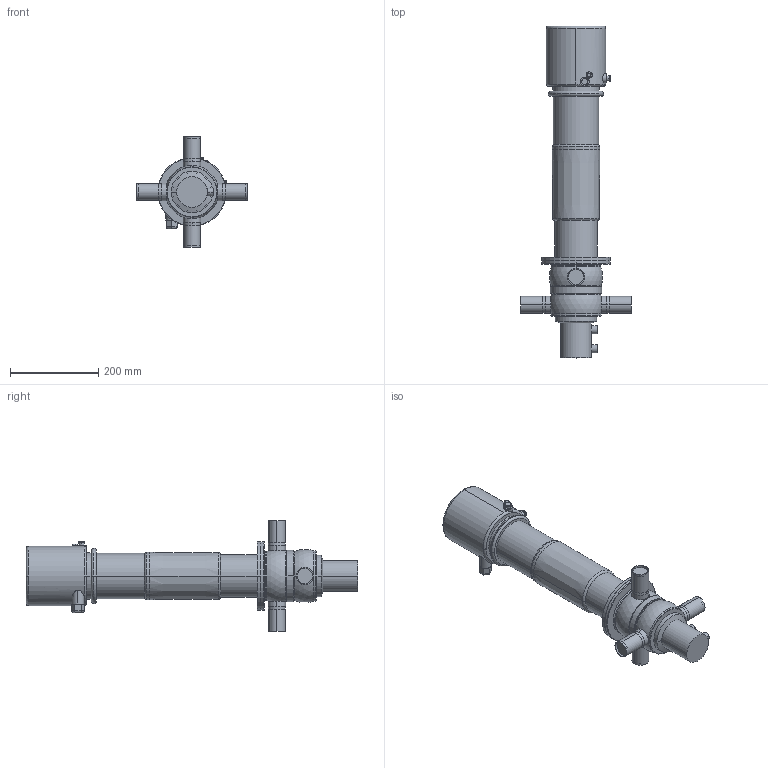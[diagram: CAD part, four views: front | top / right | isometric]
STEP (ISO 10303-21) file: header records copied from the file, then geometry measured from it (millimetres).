
FILE_DESCRIPTION(('Creo Elements/Direct Modeling STEP Export'),'2;1');
FILE_NAME('D44-1.5T_CU4.stp','2019-09-03T10:59:53',(''),(''),'PTC Creo Elements/Direct Modeling STEP processor for AP214 (Solid Model)','PTC Creo Elements/Direct Modeling 19.0B 21-Mar-2015 (C) Parametric Technology GmbH','');
FILE_SCHEMA(('AUTOMOTIVE_DESIGN { 1 0 10303 214 1 1 1 1 }'));
Length unit declared in the file: millimetre
Products named in the file (5): CU41-D4; housing_D44-1.5T; actuator_D4-100_yoke; drain_pipe-62; D44-1.5T_CU4
Assembly tree (4 placements, depth 2):
  D44-1.5T_CU4
    drain_pipe-62
    actuator_D4-100_yoke
    housing_D44-1.5T
    CU41-D4
Bounding box: 250 x 750.7 x 250 mm (x, y, z)
Volume: 7524655 mm3; surface area: 429228.8 mm2
Topology: 4 solids, 4 shells, 262 faces, 612 edges, 386 vertices
Faces by surface type: cylinder 108, plane 63, torus 36, extrusion 33, cone 18, sphere 4
Entity records: 11303 total; most frequent: CARTESIAN_POINT 5697, ORIENTED_EDGE 1224, DIRECTION 1026, EDGE_CURVE 612, AXIS2_PLACEMENT_3D 403, VERTEX_POINT 386, EDGE_LOOP 290, FACE_OUTER_BOUND 262
